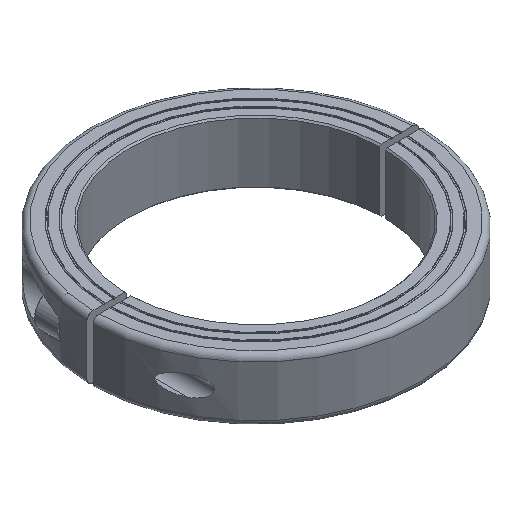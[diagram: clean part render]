
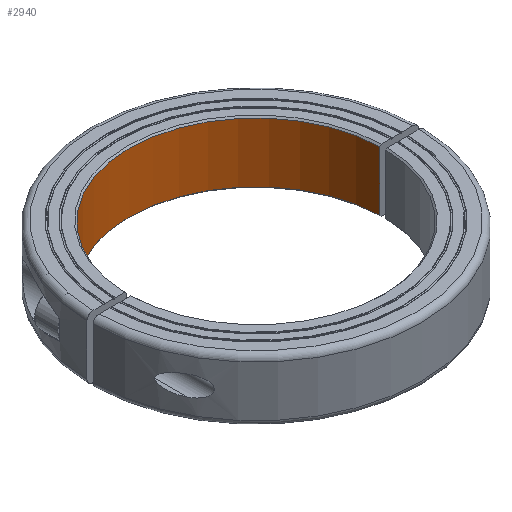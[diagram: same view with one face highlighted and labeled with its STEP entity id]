
A CAD part, isometric view. The second image highlights one B-rep face of the part: STEP entity #2940.
In plain terms, the highlighted cylindrical face has radius 65 mm (diameter 130 mm), a partial arc.
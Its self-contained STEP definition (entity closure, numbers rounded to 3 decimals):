
#2233=CARTESIAN_POINT('',(-64.981,1.584,
-31.25));
#2238=DIRECTION('',(0.,0.,1.));
#2239=VECTOR('',#2238,30.5);
#2240=CARTESIAN_POINT('',(-64.981,1.584,
-31.25));
#2241=LINE('',#2240,#2239);
#2245=CARTESIAN_POINT('',(-64.981,1.584,
-0.75));
#2301=DIRECTION('',(0.,0.,-1.));
#2302=VECTOR('',#2301,30.5);
#2303=CARTESIAN_POINT('',(64.981,1.584,
-0.75));
#2304=LINE('',#2303,#2302);
#2308=CARTESIAN_POINT('',(64.981,1.584,-31.25));
#2375=CARTESIAN_POINT('',(64.981,1.584,
-0.75));
#2390=CARTESIAN_POINT('',(0.,0.,-0.75));
#2391=DIRECTION('',(0.,0.,1.));
#2392=DIRECTION('',(1.,0.024,0.));
#2393=AXIS2_PLACEMENT_3D('',#2390,#2391,#2392);
#2430=CARTESIAN_POINT('',(0.,0.,-31.25));
#2431=DIRECTION('',(0.,0.,-1.));
#2432=DIRECTION('',(-1.,0.024,0.));
#2433=AXIS2_PLACEMENT_3D('',#2430,#2431,#2432);
#2694=VERTEX_POINT('',#2233);
#2696=VERTEX_POINT('',#2245);
#2711=VERTEX_POINT('',#2308);
#2725=VERTEX_POINT('',#2375);
#2927=CARTESIAN_POINT('',(0.,0.,-0.75));
#2928=DIRECTION('',(0.,0.,-1.));
#2929=DIRECTION('',(-1.,0.,0.));
#2930=AXIS2_PLACEMENT_3D('',#2927,#2928,#2929);
#2931=CYLINDRICAL_SURFACE('',#2930,65.);
#2932=ORIENTED_EDGE('',*,*,#2881,.F.);
#2934=ORIENTED_EDGE('',*,*,#2933,.T.);
#2935=ORIENTED_EDGE('',*,*,#2798,.F.);
#2937=ORIENTED_EDGE('',*,*,#2936,.T.);
#2938=EDGE_LOOP('',(#2932,#2934,#2935,#2937));
#2939=FACE_OUTER_BOUND('',#2938,.F.);
#2394=CIRCLE('',#2393,65.);
#2434=CIRCLE('',#2433,65.);
#2798=EDGE_CURVE('',#2694,#2696,#2241,.T.);
#2881=EDGE_CURVE('',#2725,#2711,#2304,.T.);
#2933=EDGE_CURVE('',#2725,#2696,#2394,.T.);
#2936=EDGE_CURVE('',#2694,#2711,#2434,.T.);
#2940=ADVANCED_FACE('',(#2939),#2931,.T.);
